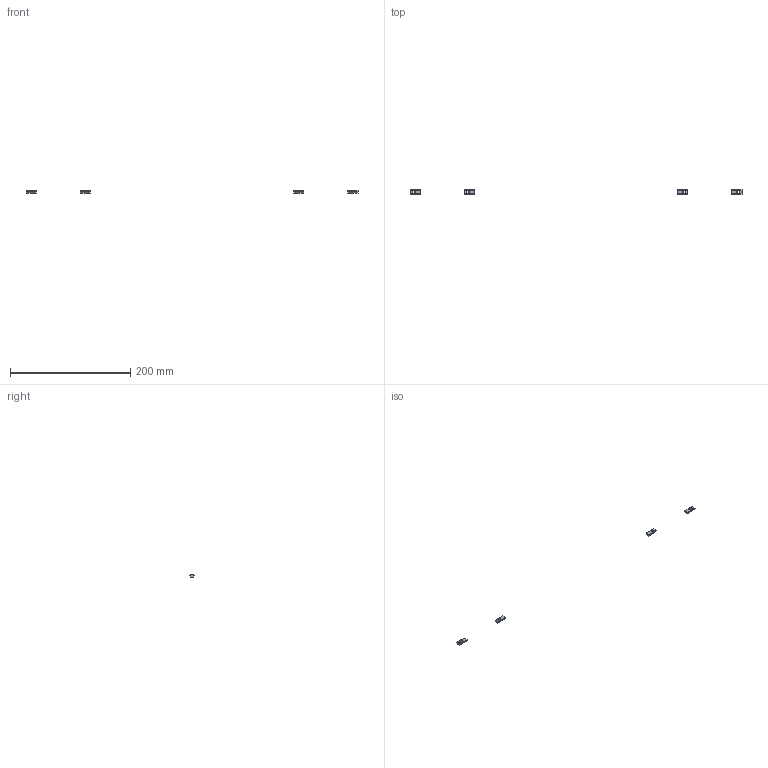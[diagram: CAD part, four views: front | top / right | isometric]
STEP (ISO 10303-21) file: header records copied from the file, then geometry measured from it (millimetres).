
FILE_DESCRIPTION(/* description */ (''),/* implementation_level */ '2;1');
FILE_NAME(/* name */ '13.door-panels#13.3#HNTPZ5-5',/* time_stamp */ '2014-12-01T20:19:49+01:00',/* author */ (''),/* organization */ (''),/* preprocessor_version */ 'ST-DEVELOPER v14',/* originating_system */ '',/* authorisation */ '');
FILE_SCHEMA (('AUTOMOTIVE_DESIGN'));
Length unit declared in the file: millimetre
Products named in the file (2): Document; nut tslot, post, M5
Assembly tree (2 placements, depth 2):
  Document
    nut tslot, post, M5  x2
Bounding box: 552 x 8.3 x 3.8 mm (x, y, z)
Volume: 1260.1 mm3; surface area: 1678.2 mm2
Topology: 4 solids, 4 shells, 52 faces, 144 edges, 96 vertices
Faces by surface type: plane 44, bspline 8
Entity records: 2913 total; most frequent: CARTESIAN_POINT 1373, B_SPLINE_CURVE_WITH_KNOTS 300, ORIENTED_EDGE 216, PCURVE 216, DEFINITIONAL_REPRESENTATION 216, SURFACE_CURVE 108, EDGE_CURVE 108, VERTEX_POINT 72
